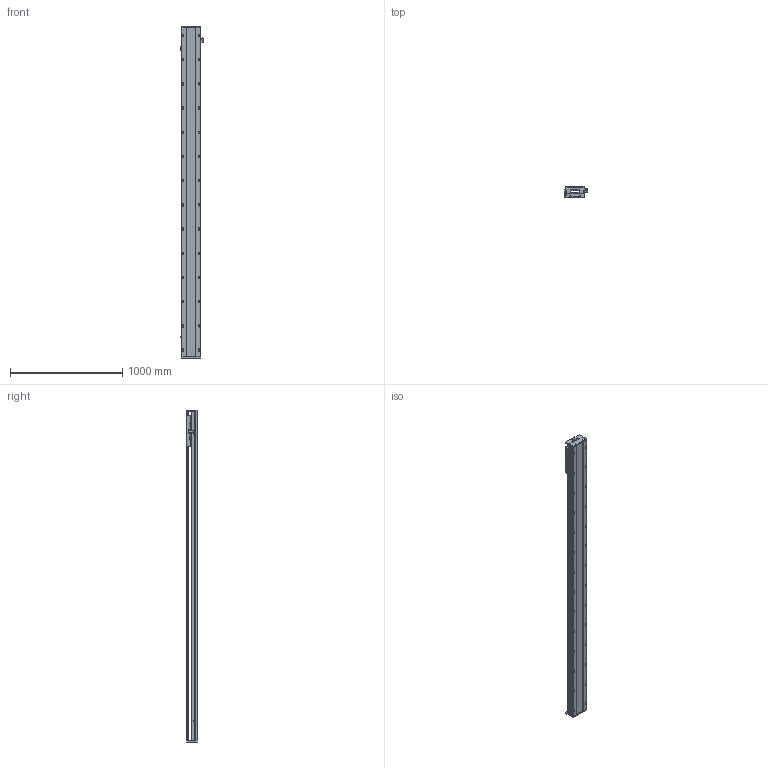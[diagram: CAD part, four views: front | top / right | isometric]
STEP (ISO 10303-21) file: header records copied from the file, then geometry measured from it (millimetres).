
FILE_DESCRIPTION (( 'STEP AP203' ), '1' );
FILE_NAME ('SKR17S-C2-S2584（简）.STEP', '2022-09-29T08:27:49', ( '' ), ( '' ), 'SwSTEP 2.0', 'SolidWorks 2018', '' );
FILE_SCHEMA (( 'CONFIG_CONTROL_DESIGN' ));
Length unit declared in the file: millimetre
Products named in the file (8): 棠掑假蚾輸; SKR17滑台-280L（简）; SKR17底座-C2-S2584（简); EE-SX672; 感应片（SKR12S-14S-17S）; SIKO棠掑; SKR17S-C2-S2584（简）; SKR17耜啣
Assembly tree (10 placements, depth 2):
  SKR17S-C2-S2584（简）
    SKR17底座-C2-S2584（简)
    SIKO棠掑
    EE-SX672  x3
    SKR17耜啣  x2
    棠掑假蚾輸
    SKR17滑台-280L（简）
    感应片（SKR12S-14S-17S）
Bounding box: 212.7 x 97 x 2964 mm (x, y, z)
Volume: 22849367.2 mm3; surface area: 2748802.2 mm2
Topology: 11 solids, 11 shells, 1480 faces, 4145 edges, 2659 vertices
Faces by surface type: cylinder 751, plane 579, cone 150
Entity records: 46883 total; most frequent: CARTESIAN_POINT 13023, ORIENTED_EDGE 7238, DIRECTION 6497, EDGE_CURVE 3619, VERTEX_POINT 2363, AXIS2_PLACEMENT_3D 2317, VECTOR 1863, LINE 1863
